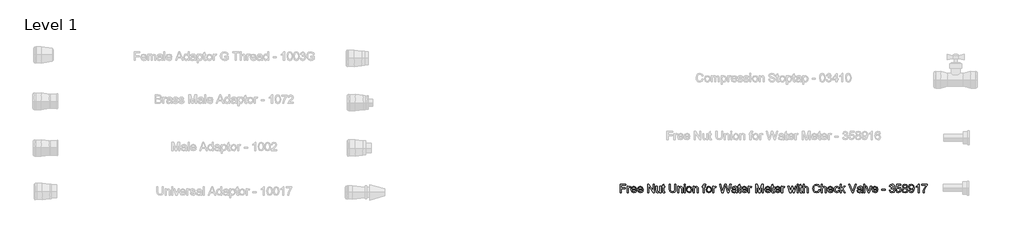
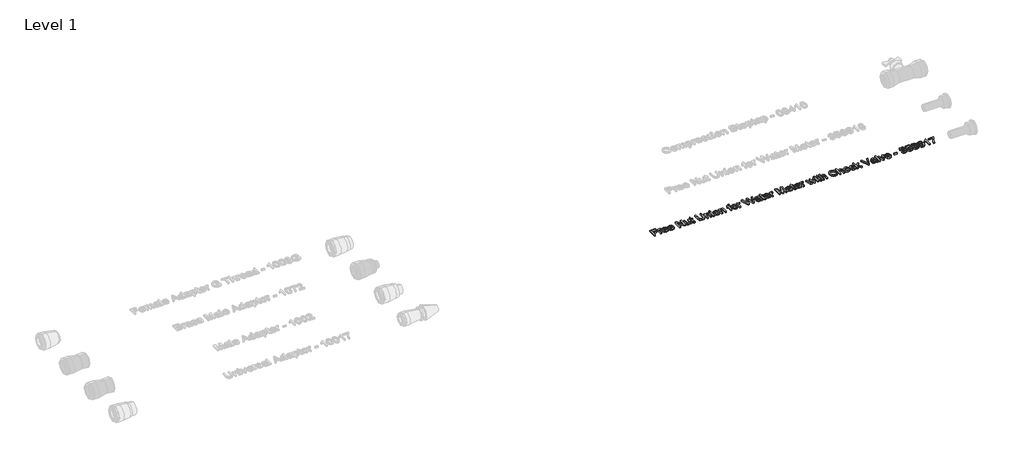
# One storey, part 13 of 13: 1 proxy.
"""IFC4 building model written with IfcOpenShell, lengths in millimetres."""

from ifc_helpers import new_model, si_unit, origin, origin_with_axes, place, context, project, spatial, polyline, outline, extrude, element, save

model = new_model("IFC4")

# Units and contexts
model_context = context("Model", 3, world=origin())
ifc_project = project(units=[si_unit("LENGTHUNIT", "METRE", prefix="MILLI")], contexts=[model_context])

# Site, building, storey
site = spatial("IfcSite", under=ifc_project)
building = spatial("IfcBuilding", under=site)
storey = spatial("IfcBuildingStorey", under=building, Name="Level 1", Elevation=0.0)

# Proxy
placement = place(None, origin())
element("IfcBuildingElementProxy", 1, Name="30 mm Arial", ObjectType="30 mm Arial", at=placement, inside=storey, context=model_context, shape_type="SweptSolid", body=[
    extrude(outline(polyline([(18334.4381791, 4454.3413835), (18334.4381791, 4483.8798451), (18354.284333, 4483.8798451), (18354.284333, 4480.1875374), (18338.1304868, 4480.1875374), (18338.1304868, 4471.4183066), (18351.9766407, 4471.4183066), (18351.9766407, 4467.7259989), (18338.1304868, 4467.7259989), (18338.1304868, 4454.3413835), (18334.4381791, 4454.3413835)])), origin_with_axes(), (0.0, 0.0, 1.0), 5.0),
    extrude(outline(polyline([(18358.8997176, 4454.3413835), (18358.8997176, 4476.0336912), (18362.1304868, 4476.0336912), (18362.1304868, 4472.8245566), (18364.423756, 4475.7812874), (18366.7314483, 4476.4952297), (18370.4381791, 4475.3558066), (18369.205006, 4472.0457104), (18366.6088522, 4472.802922), (18364.5211118, 4472.0745566), (18363.190583, 4470.0553258), (18362.5920253, 4465.7428258), (18362.5920253, 4454.3413835), (18358.8997176, 4454.3413835)])), origin_with_axes(), (0.0, 0.0, 1.0), 5.0),
    extrude(outline(polyline([(18387.9333714, 4460.802922), (18391.5535637, 4460.3413835), (18388.1677464, 4455.5745566), (18381.861256, 4453.8798451), (18374.1953907, 4456.8041239), (18371.361256, 4465.0072489), (18374.2242368, 4473.4808066), (18381.6521214, 4476.4952297), (18388.8672657, 4473.4880181), (18391.6689483, 4465.0288835), (18375.0535637, 4464.0336912), (18377.1773618, 4459.2380181), (18381.9333714, 4457.5721527), (18385.5535637, 4458.3437874), (18387.9333714, 4460.802922)]), holes=[polyline([(18375.0535637, 4467.7259989), (18387.9766407, 4467.7259989), (18386.4982753, 4471.0721527), (18381.6376983, 4472.802922), (18377.0908233, 4471.4219124), (18375.0535637, 4467.7259989)])]), origin_with_axes(), (0.0, 0.0, 1.0), 5.0),
    extrude(outline(polyline([(18410.548756, 4460.802922), (18414.1689483, 4460.3413835), (18410.783131, 4455.5745566), (18404.4766407, 4453.8798451), (18396.8107753, 4456.8041239), (18393.9766407, 4465.0072489), (18396.8396214, 4473.4808066), (18404.267506, 4476.4952297), (18411.4826503, 4473.4880181), (18414.284333, 4465.0288835), (18397.6689483, 4464.0336912), (18399.7927464, 4459.2380181), (18404.548756, 4457.5721527), (18408.1689483, 4458.3437874), (18410.548756, 4460.802922)]), holes=[polyline([(18397.6689483, 4467.7259989), (18410.5920253, 4467.7259989), (18409.1136599, 4471.0721527), (18404.253083, 4472.802922), (18399.706208, 4471.4219124), (18397.6689483, 4467.7259989)])]), origin_with_axes(), (0.0, 0.0, 1.0), 5.0),
    extrude(outline(polyline([(18429.9766407, 4454.3413835), (18429.9766407, 4483.8798451), (18433.9285637, 4483.8798451), (18449.361256, 4460.4784027), (18449.361256, 4483.8798451), (18453.0535637, 4483.8798451), (18453.0535637, 4454.3413835), (18449.1016407, 4454.3413835), (18433.6689483, 4477.7500374), (18433.6689483, 4454.3413835), (18429.9766407, 4454.3413835)])), origin_with_axes(), (0.0, 0.0, 1.0), 5.0),
    extrude(outline(polyline([(18472.8997176, 4454.3413835), (18472.8997176, 4458.0697489), (18466.236256, 4453.8798451), (18462.7639003, 4454.615422), (18460.3696695, 4456.4615758), (18459.2699099, 4459.1803258), (18459.0535637, 4462.6130181), (18459.0535637, 4476.0336912), (18462.7458714, 4476.0336912), (18462.7458714, 4464.3509989), (18462.9694291, 4460.5865758), (18464.4297657, 4458.3762393), (18467.1809676, 4457.5721527), (18470.2639003, 4458.3942681), (18472.3011599, 4460.6334508), (18472.8997176, 4464.7476335), (18472.8997176, 4476.0336912), (18476.5920253, 4476.0336912), (18476.5920253, 4454.3413835), (18472.8997176, 4454.3413835)])), origin_with_axes(), (0.0, 0.0, 1.0), 5.0),
    extrude(outline(polyline([(18489.5151022, 4457.4207104), (18489.9766407, 4454.2332104), (18487.2146214, 4453.8798451), (18484.1208714, 4454.4928258), (18482.5776022, 4456.1009989), (18482.1304868, 4460.2909027), (18482.1304868, 4472.3413835), (18479.361256, 4472.3413835), (18479.361256, 4476.0336912), (18482.1304868, 4476.0336912), (18482.1304868, 4481.3053258), (18485.8227945, 4483.4759989), (18485.8227945, 4476.0336912), (18489.5151022, 4476.0336912), (18489.5151022, 4472.3413835), (18485.8227945, 4472.3413835), (18485.8227945, 4460.3990758), (18486.017506, 4458.4952297), (18489.5151022, 4457.4207104)])), origin_with_axes(), (0.0, 0.0, 1.0), 5.0),
    extrude(outline(polyline([(18524.5920253, 4483.8798451), (18528.284333, 4483.8798451), (18528.284333, 4466.8389797), (18527.2819291, 4459.7752777), (18523.6689483, 4455.5204701), (18516.8179868, 4453.8798451), (18510.0715926, 4455.3077297), (18506.3288041, 4459.443547), (18505.2074099, 4466.8389797), (18505.2074099, 4483.8798451), (18508.8997176, 4483.8798451), (18508.8997176, 4466.9687874), (18509.628083, 4461.3401816), (18512.1304868, 4458.552922), (18516.471833, 4457.5721527), (18522.7242368, 4459.5120566), (18524.5920253, 4466.9687874), (18524.5920253, 4483.8798451)])), origin_with_axes(), (0.0, 0.0, 1.0), 5.0),
    extrude(outline(polyline([(18534.284333, 4454.3413835), (18534.284333, 4476.0336912), (18537.9766407, 4476.0336912), (18537.9766407, 4473.0048451), (18544.6545253, 4476.4952297), (18548.1413041, 4475.7921047), (18550.5211118, 4473.9459508), (18551.628083, 4471.2308066), (18551.8227945, 4467.6610951), (18551.8227945, 4454.3413835), (18548.1304868, 4454.3413835), (18548.1304868, 4467.1634989), (18547.705006, 4470.4303258), (18546.2014003, 4472.1574893), (18543.6665445, 4472.802922), (18539.6605349, 4471.3534027), (18537.9766407, 4465.8509989), (18537.9766407, 4454.3413835), (18534.284333, 4454.3413835)])), origin_with_axes(), (0.0, 0.0, 1.0), 5.0),
    extrude(outline(polyline([(18556.8997176, 4480.1875374), (18556.8997176, 4483.8798451), (18560.5920253, 4483.8798451), (18560.5920253, 4480.1875374), (18556.8997176, 4480.1875374)])), origin_with_axes(), (0.0, 0.0, 1.0), 5.0),
    extrude(outline(polyline([(18556.8997176, 4454.3413835), (18556.8997176, 4476.0336912), (18560.5920253, 4476.0336912), (18560.5920253, 4454.3413835), (18556.8997176, 4454.3413835)])), origin_with_axes(), (0.0, 0.0, 1.0), 5.0),
    extrude(outline(polyline([(18565.2074099, 4465.1875374), (18568.4021214, 4474.0937874), (18574.9069291, 4476.4952297), (18581.8840926, 4473.5709508), (18584.5920253, 4465.490422), (18583.3949099, 4458.9207104), (18579.908131, 4455.2031624), (18574.9069291, 4453.8798451), (18567.8864964, 4456.7933066), (18565.2074099, 4465.1875374)]), holes=[polyline([(18568.8997176, 4465.1947489), (18570.6088522, 4459.4723931), (18574.9069291, 4457.5721527), (18579.190583, 4459.4832104), (18580.8997176, 4465.3101335), (18579.1797657, 4470.9026816), (18574.9069291, 4472.802922), (18570.6088522, 4470.9098931), (18568.8997176, 4465.1947489)])]), origin_with_axes(), (0.0, 0.0, 1.0), 5.0),
    extrude(outline(polyline([(18588.7458714, 4454.3413835), (18588.7458714, 4476.0336912), (18592.4381791, 4476.0336912), (18592.4381791, 4473.0048451), (18599.1160637, 4476.4952297), (18602.6028426, 4475.7921047), (18604.9826503, 4473.9459508), (18606.0896214, 4471.2308066), (18606.284333, 4467.6610951), (18606.284333, 4454.3413835), (18602.5920253, 4454.3413835), (18602.5920253, 4467.1634989), (18602.1665445, 4470.4303258), (18600.6629387, 4472.1574893), (18598.128083, 4472.802922), (18594.1220733, 4471.3534027), (18592.4381791, 4465.8509989), (18592.4381791, 4454.3413835), (18588.7458714, 4454.3413835)])), origin_with_axes(), (0.0, 0.0, 1.0), 5.0),
    extrude(outline(polyline([(18623.8227945, 4454.3413835), (18623.8227945, 4472.3413835), (18620.5920253, 4472.3413835), (18620.5920253, 4476.0336912), (18623.8227945, 4476.0336912), (18623.8227945, 4478.2187874), (18624.2122176, 4481.2981143), (18626.1016407, 4483.4976335), (18629.8227945, 4484.3413835), (18633.190583, 4483.9375374), (18632.6497176, 4480.4759989), (18630.5223137, 4480.6490758), (18628.1965926, 4480.0360951), (18627.5151022, 4477.7500374), (18627.5151022, 4476.0336912), (18631.6689483, 4476.0336912), (18631.6689483, 4472.3413835), (18627.5151022, 4472.3413835), (18627.5151022, 4454.3413835), (18623.8227945, 4454.3413835)])), origin_with_axes(), (0.0, 0.0, 1.0), 5.0),
    extrude(outline(polyline([(18633.9766407, 4465.1875374), (18637.1713522, 4474.0937874), (18643.6761599, 4476.4952297), (18650.6533233, 4473.5709508), (18653.361256, 4465.490422), (18652.1641407, 4458.9207104), (18648.6773618, 4455.2031624), (18643.6761599, 4453.8798451), (18636.6557272, 4456.7933066), (18633.9766407, 4465.1875374)]), holes=[polyline([(18637.6689483, 4465.1947489), (18639.378083, 4459.4723931), (18643.6761599, 4457.5721527), (18647.9598137, 4459.4832104), (18649.6689483, 4465.3101335), (18647.9489964, 4470.9026816), (18643.6761599, 4472.802922), (18639.378083, 4470.9098931), (18637.6689483, 4465.1947489)])]), origin_with_axes(), (0.0, 0.0, 1.0), 5.0),
    extrude(outline(polyline([(18657.5151022, 4454.3413835), (18657.5151022, 4476.0336912), (18660.7458714, 4476.0336912), (18660.7458714, 4472.8245566), (18663.0391407, 4475.7812874), (18665.346833, 4476.4952297), (18669.0535637, 4475.3558066), (18667.8203907, 4472.0457104), (18665.2242368, 4472.802922), (18663.1364964, 4472.0745566), (18661.8059676, 4470.0553258), (18661.2074099, 4465.7428258), (18661.2074099, 4454.3413835), (18657.5151022, 4454.3413835)])), origin_with_axes(), (0.0, 0.0, 1.0), 5.0),
    extrude(outline(polyline([(18688.6473137, 4454.3413835), (18680.5920253, 4483.8798451), (18684.3997176, 4483.8798451), (18689.0727945, 4464.4663835), (18690.5151022, 4458.4735951), (18692.0583714, 4463.7740758), (18697.9141407, 4483.8798451), (18703.4021214, 4483.8798451), (18707.6569291, 4469.3053258), (18710.8227945, 4458.4735951), (18712.221833, 4464.2933066), (18716.9381791, 4483.8798451), (18720.7458714, 4483.8798451), (18712.6833714, 4454.3413835), (18708.7386599, 4454.3413835), (18701.6569291, 4477.1298451), (18700.6689483, 4480.3101335), (18699.5583714, 4476.4808066), (18693.1040445, 4454.3413835), (18688.6473137, 4454.3413835)])), origin_with_axes(), (0.0, 0.0, 1.0), 5.0),
    extrude(outline(polyline([(18737.8227945, 4457.1106143), (18734.2422657, 4454.6082104), (18730.2867368, 4453.8798451), (18724.924958, 4455.6322489), (18723.0535637, 4460.1106143), (18723.7602945, 4463.0312874), (18725.6172657, 4465.1514797), (18728.2026022, 4466.3630181), (18731.3973137, 4466.9183066), (18737.8011599, 4468.1875374), (18736.8059676, 4471.7356143), (18732.7242368, 4472.802922), (18728.9886599, 4472.0925854), (18727.2074099, 4469.5721527), (18723.5151022, 4470.0336912), (18725.112458, 4473.6394604), (18728.3288041, 4475.7524412), (18733.2001983, 4476.4952297), (18737.674958, 4475.8389797), (18740.2026022, 4474.1911431), (18741.3348137, 4471.6851335), (18741.5151022, 4468.4543643), (18741.5151022, 4463.8606143), (18741.7026022, 4457.4459508), (18742.4381791, 4454.3413835), (18738.7458714, 4454.3413835), (18737.8227945, 4457.1106143)]), holes=[polyline([(18737.8119772, 4463.9723931), (18731.8660637, 4463.3630181), (18728.689381, 4462.7644604), (18727.2506791, 4461.7909027), (18727.845631, 4458.3726335), (18731.0727945, 4457.5721527), (18734.8083714, 4458.4555662), (18737.2170253, 4460.5937874), (18737.8119772, 4463.9723931)])]), origin_with_axes(), (0.0, 0.0, 1.0), 5.0),
    extrude(outline(polyline([(18754.4381791, 4457.4207104), (18754.8997176, 4454.2332104), (18752.1376983, 4453.8798451), (18749.0439483, 4454.4928258), (18747.5006791, 4456.1009989), (18747.0535637, 4460.2909027), (18747.0535637, 4472.3413835), (18744.284333, 4472.3413835), (18744.284333, 4476.0336912), (18747.0535637, 4476.0336912), (18747.0535637, 4481.3053258), (18750.7458714, 4483.4759989), (18750.7458714, 4476.0336912), (18754.4381791, 4476.0336912), (18754.4381791, 4472.3413835), (18750.7458714, 4472.3413835), (18750.7458714, 4460.3990758), (18750.940583, 4458.4952297), (18754.4381791, 4457.4207104)])), origin_with_axes(), (0.0, 0.0, 1.0), 5.0),
    extrude(outline(polyline([(18773.3179868, 4460.802922), (18776.9381791, 4460.3413835), (18773.5523618, 4455.5745566), (18767.2458714, 4453.8798451), (18759.580006, 4456.8041239), (18756.7458714, 4465.0072489), (18759.6088522, 4473.4808066), (18767.0367368, 4476.4952297), (18774.251881, 4473.4880181), (18777.0535637, 4465.0288835), (18760.4381791, 4464.0336912), (18762.5619772, 4459.2380181), (18767.3179868, 4457.5721527), (18770.9381791, 4458.3437874), (18773.3179868, 4460.802922)]), holes=[polyline([(18760.4381791, 4467.7259989), (18773.361256, 4467.7259989), (18771.8828907, 4471.0721527), (18767.0223137, 4472.802922), (18762.4754387, 4471.4219124), (18760.4381791, 4467.7259989)])]), origin_with_axes(), (0.0, 0.0, 1.0), 5.0),
    extrude(outline(polyline([(18780.7458714, 4454.3413835), (18780.7458714, 4476.0336912), (18783.9766407, 4476.0336912), (18783.9766407, 4472.8245566), (18786.2699099, 4475.7812874), (18788.5776022, 4476.4952297), (18792.284333, 4475.3558066), (18791.0511599, 4472.0457104), (18788.455006, 4472.802922), (18786.3672657, 4472.0745566), (18785.0367368, 4470.0553258), (18784.4381791, 4465.7428258), (18784.4381791, 4454.3413835), (18780.7458714, 4454.3413835)])), origin_with_axes(), (0.0, 0.0, 1.0), 5.0),
    extrude(outline(polyline([(18806.5920253, 4454.3413835), (18806.5920253, 4483.8798451), (18812.9453907, 4483.8798451), (18818.9886599, 4463.0601335), (18820.2074099, 4458.7115758), (18821.5271214, 4463.4207104), (18827.4694291, 4483.8798451), (18833.8227945, 4483.8798451), (18833.8227945, 4454.3413835), (18830.1304868, 4454.3413835), (18830.1304868, 4480.1875374), (18822.7098137, 4454.3413835), (18817.705006, 4454.3413835), (18810.284333, 4480.1875374), (18810.284333, 4454.3413835), (18806.5920253, 4454.3413835)])), origin_with_axes(), (0.0, 0.0, 1.0), 5.0),
    extrude(outline(polyline([(18855.0102945, 4460.802922), (18858.6304868, 4460.3413835), (18855.2446695, 4455.5745566), (18848.9381791, 4453.8798451), (18841.2723137, 4456.8041239), (18838.4381791, 4465.0072489), (18841.3011599, 4473.4808066), (18848.7290445, 4476.4952297), (18855.9441887, 4473.4880181), (18858.7458714, 4465.0288835), (18842.1304868, 4464.0336912), (18844.2542849, 4459.2380181), (18849.0102945, 4457.5721527), (18852.6304868, 4458.3437874), (18855.0102945, 4460.802922)]), holes=[polyline([(18842.1304868, 4467.7259989), (18855.0535637, 4467.7259989), (18853.5751983, 4471.0721527), (18848.7146214, 4472.802922), (18844.1677464, 4471.4219124), (18842.1304868, 4467.7259989)])]), origin_with_axes(), (0.0, 0.0, 1.0), 5.0),
    extrude(outline(polyline([(18870.284333, 4457.4207104), (18870.7458714, 4454.2332104), (18867.9838522, 4453.8798451), (18864.8901022, 4454.4928258), (18863.346833, 4456.1009989), (18862.8997176, 4460.2909027), (18862.8997176, 4472.3413835), (18860.1304868, 4472.3413835), (18860.1304868, 4476.0336912), (18862.8997176, 4476.0336912), (18862.8997176, 4481.3053258), (18866.5920253, 4483.4759989), (18866.5920253, 4476.0336912), (18870.284333, 4476.0336912), (18870.284333, 4472.3413835), (18866.5920253, 4472.3413835), (18866.5920253, 4460.3990758), (18866.7867368, 4458.4952297), (18870.284333, 4457.4207104)])), origin_with_axes(), (0.0, 0.0, 1.0), 5.0),
    extrude(outline(polyline([(18889.1641407, 4460.802922), (18892.784333, 4460.3413835), (18889.3985157, 4455.5745566), (18883.0920253, 4453.8798451), (18875.4261599, 4456.8041239), (18872.5920253, 4465.0072489), (18875.455006, 4473.4808066), (18882.8828907, 4476.4952297), (18890.0980349, 4473.4880181), (18892.8997176, 4465.0288835), (18876.284333, 4464.0336912), (18878.408131, 4459.2380181), (18883.1641407, 4457.5721527), (18886.784333, 4458.3437874), (18889.1641407, 4460.802922)]), holes=[polyline([(18876.284333, 4467.7259989), (18889.2074099, 4467.7259989), (18887.7290445, 4471.0721527), (18882.8684676, 4472.802922), (18878.3215926, 4471.4219124), (18876.284333, 4467.7259989)])]), origin_with_axes(), (0.0, 0.0, 1.0), 5.0),
    extrude(outline(polyline([(18896.5920253, 4454.3413835), (18896.5920253, 4476.0336912), (18899.8227945, 4476.0336912), (18899.8227945, 4472.8245566), (18902.1160637, 4475.7812874), (18904.423756, 4476.4952297), (18908.1304868, 4475.3558066), (18906.8973137, 4472.0457104), (18904.3011599, 4472.802922), (18902.2134195, 4472.0745566), (18900.8828907, 4470.0553258), (18900.284333, 4465.7428258), (18900.284333, 4454.3413835), (18896.5920253, 4454.3413835)])), origin_with_axes(), (0.0, 0.0, 1.0), 5.0),
    extrude(outline(polyline([(18925.5751983, 4454.3413835), (18918.9766407, 4476.0336912), (18922.8131791, 4476.0336912), (18926.5559676, 4463.3774412), (18927.673756, 4458.8558066), (18928.5896214, 4463.2115758), (18931.5679868, 4476.0336912), (18935.9670253, 4476.0336912), (18938.9309676, 4463.2476335), (18939.7458714, 4459.302922), (18940.9141407, 4463.4639797), (18944.6641407, 4476.0336912), (18948.5151022, 4476.0336912), (18941.8660637, 4454.3413835), (18937.4021214, 4454.3413835), (18934.5679868, 4467.0625374), (18933.7458714, 4471.0288835), (18930.0896214, 4454.3413835), (18925.5751983, 4454.3413835)])), origin_with_axes(), (0.0, 0.0, 1.0), 5.0),
    extrude(outline(polyline([(18951.0535637, 4454.3413835), (18951.0535637, 4476.0336912), (18954.7458714, 4476.0336912), (18954.7458714, 4454.3413835), (18951.0535637, 4454.3413835)])), origin_with_axes(), (0.0, 0.0, 1.0), 5.0),
    extrude(outline(polyline([(18951.0535637, 4480.1875374), (18951.0535637, 4483.8798451), (18954.7458714, 4483.8798451), (18954.7458714, 4480.1875374), (18951.0535637, 4480.1875374)])), origin_with_axes(), (0.0, 0.0, 1.0), 5.0),
    extrude(outline(polyline([(18968.1304868, 4457.4207104), (18968.5920253, 4454.2332104), (18965.830006, 4453.8798451), (18962.736256, 4454.4928258), (18961.1929868, 4456.1009989), (18960.7458714, 4460.2909027), (18960.7458714, 4472.3413835), (18957.9766407, 4472.3413835), (18957.9766407, 4476.0336912), (18960.7458714, 4476.0336912), (18960.7458714, 4481.3053258), (18964.4381791, 4483.4759989), (18964.4381791, 4476.0336912), (18968.1304868, 4476.0336912), (18968.1304868, 4472.3413835), (18964.4381791, 4472.3413835), (18964.4381791, 4460.3990758), (18964.6328907, 4458.4952297), (18968.1304868, 4457.4207104)])), origin_with_axes(), (0.0, 0.0, 1.0), 5.0),
    extrude(outline(polyline([(18971.8227945, 4454.3413835), (18971.8227945, 4483.8798451), (18975.5151022, 4483.8798451), (18975.5151022, 4473.0192681), (18981.940583, 4476.4952297), (18986.0872176, 4475.5469124), (18988.6040445, 4472.9255181), (18989.361256, 4468.0721527), (18989.361256, 4454.3413835), (18985.6689483, 4454.3413835), (18985.6689483, 4467.6899412), (18984.4934676, 4471.584172), (18981.1617368, 4472.802922), (18978.1364964, 4471.9808066), (18976.1172657, 4469.7524412), (18975.5151022, 4465.865422), (18975.5151022, 4454.3413835), (18971.8227945, 4454.3413835)])), origin_with_axes(), (0.0, 0.0, 1.0), 5.0),
    extrude(outline(polyline([(19027.2074099, 4464.8413835), (19030.8997176, 4463.8894604), (19026.5223137, 4456.443547), (19018.7915445, 4453.8798451), (19011.1076503, 4455.8197489), (19006.6004387, 4461.4375374), (19005.0535637, 4469.334172), (19006.8023618, 4477.3606143), (19011.7747176, 4482.5637393), (19018.8708714, 4484.3413835), (19026.2663041, 4482.0409027), (19030.4381791, 4475.5649412), (19026.7458714, 4474.6851335), (19023.7170253, 4479.224797), (19018.7266407, 4480.6490758), (19012.9501983, 4479.0697489), (19009.6869772, 4474.8293643), (19008.7458714, 4469.3413835), (19009.8600541, 4462.9808066), (19013.3288041, 4458.9171047), (19018.423756, 4457.5721527), (19024.0739964, 4459.4038835), (19027.2074099, 4464.8413835)])), origin_with_axes(), (0.0, 0.0, 1.0), 5.0),
    extrude(outline(polyline([(19035.5151022, 4454.3413835), (19035.5151022, 4483.8798451), (19039.2074099, 4483.8798451), (19039.2074099, 4473.0192681), (19045.6328907, 4476.4952297), (19049.7795253, 4475.5469124), (19052.2963522, 4472.9255181), (19053.0535637, 4468.0721527), (19053.0535637, 4454.3413835), (19049.361256, 4454.3413835), (19049.361256, 4467.6899412), (19048.1857753, 4471.584172), (19044.8540445, 4472.802922), (19041.8288041, 4471.9808066), (19039.8095733, 4469.7524412), (19039.2074099, 4465.865422), (19039.2074099, 4454.3413835), (19035.5151022, 4454.3413835)])), origin_with_axes(), (0.0, 0.0, 1.0), 5.0),
    extrude(outline(polyline([(19073.3179868, 4460.802922), (19076.9381791, 4460.3413835), (19073.5523618, 4455.5745566), (19067.2458714, 4453.8798451), (19059.580006, 4456.8041239), (19056.7458714, 4465.0072489), (19059.6088522, 4473.4808066), (19067.0367368, 4476.4952297), (19074.251881, 4473.4880181), (19077.0535637, 4465.0288835), (19060.4381791, 4464.0336912), (19062.5619772, 4459.2380181), (19067.3179868, 4457.5721527), (19070.9381791, 4458.3437874), (19073.3179868, 4460.802922)]), holes=[polyline([(19060.4381791, 4467.7259989), (19073.361256, 4467.7259989), (19071.8828907, 4471.0721527), (19067.0223137, 4472.802922), (19062.4754387, 4471.4219124), (19060.4381791, 4467.7259989)])]), origin_with_axes(), (0.0, 0.0, 1.0), 5.0),
    extrude(outline(polyline([(19094.5920253, 4462.1875374), (19098.284333, 4461.7259989), (19095.3203907, 4455.9603739), (19089.4646214, 4453.8798451), (19082.4658233, 4456.7824893), (19079.8227945, 4465.1082104), (19080.9514003, 4471.2416239), (19084.3913041, 4475.1827297), (19089.4141407, 4476.4952297), (19095.0283233, 4474.6923451), (19097.8227945, 4469.5721527), (19094.1304868, 4469.1106143), (19092.4177464, 4471.8762393), (19089.4429868, 4472.802922), (19085.1629387, 4470.9784027), (19083.5151022, 4465.209172), (19085.126881, 4459.3858547), (19089.3420253, 4457.5721527), (19092.8215926, 4458.7043643), (19094.5920253, 4462.1875374)])), origin_with_axes(), (0.0, 0.0, 1.0), 5.0),
    extrude(outline(polyline([(19101.5151022, 4454.3413835), (19101.5151022, 4483.8798451), (19105.2074099, 4483.8798451), (19105.2074099, 4468.0072489), (19113.486256, 4476.0336912), (19118.5920253, 4476.0336912), (19110.2122176, 4467.9062874), (19119.0535637, 4454.3413835), (19114.7410637, 4454.3413835), (19107.565583, 4465.3389797), (19105.2074099, 4463.052922), (19105.2074099, 4454.3413835), (19101.5151022, 4454.3413835)])), origin_with_axes(), (0.0, 0.0, 1.0), 5.0),
    extrude(outline(polyline([(19143.0102945, 4454.3413835), (19131.2554868, 4483.8798451), (19135.2074099, 4483.8798451), (19143.0751983, 4462.5985951), (19144.6689483, 4457.802922), (19146.2410637, 4462.5985951), (19154.1304868, 4483.8798451), (19158.0824099, 4483.8798451), (19146.8251983, 4454.3413835), (19143.0102945, 4454.3413835)])), origin_with_axes(), (0.0, 0.0, 1.0), 5.0),
    extrude(outline(polyline([(19174.8997176, 4457.1106143), (19171.3191887, 4454.6082104), (19167.3636599, 4453.8798451), (19162.001881, 4455.6322489), (19160.1304868, 4460.1106143), (19160.8372176, 4463.0312874), (19162.6941887, 4465.1514797), (19165.2795253, 4466.3630181), (19168.4742368, 4466.9183066), (19174.878083, 4468.1875374), (19173.8828907, 4471.7356143), (19169.8011599, 4472.802922), (19166.065583, 4472.0925854), (19164.284333, 4469.5721527), (19160.5920253, 4470.0336912), (19162.189381, 4473.6394604), (19165.4057272, 4475.7524412), (19170.2771214, 4476.4952297), (19174.751881, 4475.8389797), (19177.2795253, 4474.1911431), (19178.4117368, 4471.6851335), (19178.5920253, 4468.4543643), (19178.5920253, 4463.8606143), (19178.7795253, 4457.4459508), (19179.5151022, 4454.3413835), (19175.8227945, 4454.3413835), (19174.8997176, 4457.1106143)]), holes=[polyline([(19174.8889003, 4463.9723931), (19168.9429868, 4463.3630181), (19165.7663041, 4462.7644604), (19164.3276022, 4461.7909027), (19164.9225541, 4458.3726335), (19168.1497176, 4457.5721527), (19171.8852945, 4458.4555662), (19174.2939483, 4460.5937874), (19174.8889003, 4463.9723931)])]), origin_with_axes(), (0.0, 0.0, 1.0), 5.0),
    extrude(outline(polyline([(19183.6689483, 4454.3413835), (19183.6689483, 4483.8798451), (19187.361256, 4483.8798451), (19187.361256, 4454.3413835), (19183.6689483, 4454.3413835)])), origin_with_axes(), (0.0, 0.0, 1.0), 5.0),
    extrude(outline(polyline([(19198.221833, 4454.3413835), (19190.5920253, 4476.0336912), (19194.5006791, 4476.0336912), (19199.1232753, 4463.0384989), (19200.5151022, 4458.6683066), (19201.878083, 4462.7933066), (19206.5295253, 4476.0336912), (19210.4381791, 4476.0336912), (19202.9021214, 4454.3413835), (19198.221833, 4454.3413835)])), origin_with_axes(), (0.0, 0.0, 1.0), 5.0),
    extrude(outline(polyline([(19228.8564483, 4460.802922), (19232.4766407, 4460.3413835), (19229.0908233, 4455.5745566), (19222.784333, 4453.8798451), (19215.1184676, 4456.8041239), (19212.284333, 4465.0072489), (19215.1473137, 4473.4808066), (19222.5751983, 4476.4952297), (19229.7903426, 4473.4880181), (19232.5920253, 4465.0288835), (19215.9766407, 4464.0336912), (19218.1004387, 4459.2380181), (19222.8564483, 4457.5721527), (19226.4766407, 4458.3437874), (19228.8564483, 4460.802922)]), holes=[polyline([(19215.9766407, 4467.7259989), (19228.8997176, 4467.7259989), (19227.4213522, 4471.0721527), (19222.5607753, 4472.802922), (19218.0139003, 4471.4219124), (19215.9766407, 4467.7259989)])]), origin_with_axes(), (0.0, 0.0, 1.0), 5.0),
    extrude(outline(polyline([(19245.9766407, 4463.1106143), (19245.9766407, 4466.802922), (19257.5151022, 4466.802922), (19257.5151022, 4463.1106143), (19245.9766407, 4463.1106143)])), origin_with_axes(), (0.0, 0.0, 1.0), 5.0),
    extrude(outline(polyline([(19272.284333, 4462.1875374), (19275.9766407, 4462.6490758), (19278.0139003, 4458.7620566), (19281.8251983, 4457.5721527), (19286.3107753, 4459.209172), (19287.9766407, 4463.2620566), (19286.3251983, 4467.0805662), (19282.128083, 4468.5913835), (19279.5391407, 4468.1875374), (19279.9501983, 4471.8798451), (19284.7314483, 4472.896672), (19286.5920253, 4476.1562874), (19285.2434676, 4479.0445085), (19281.767506, 4480.1875374), (19278.2482753, 4479.0336912), (19276.4381791, 4475.5721527), (19272.7458714, 4476.0336912), (19275.767506, 4481.8245566), (19281.6376983, 4483.8798451), (19286.0908233, 4482.8666239), (19289.206208, 4480.0973931), (19290.284333, 4476.3726335), (19289.2602945, 4472.9687874), (19286.2314483, 4470.5240758), (19290.2554868, 4468.0000374), (19291.6689483, 4463.1971527), (19288.8420253, 4456.5913835), (19281.6953907, 4453.8798451), (19275.2194291, 4456.1947489), (19272.284333, 4462.1875374)])), origin_with_axes(), (0.0, 0.0, 1.0), 5.0),
    extrude(outline(polyline([(19294.8997176, 4462.1875374), (19298.5920253, 4462.6490758), (19300.4526022, 4458.8449893), (19304.3107753, 4457.5721527), (19308.940583, 4459.3425854), (19310.5920253, 4464.0409027), (19309.0451503, 4468.4255181), (19304.3684676, 4470.0336912), (19301.126881, 4469.3918643), (19299.0535637, 4467.7259989), (19295.361256, 4468.1875374), (19298.5920253, 4483.4183066), (19312.8997176, 4483.4183066), (19312.8997176, 4479.7259989), (19301.5776022, 4479.7259989), (19299.9982753, 4471.5913835), (19305.3997176, 4473.7259989), (19311.7134195, 4471.0793643), (19314.284333, 4464.271672), (19311.9694291, 4457.4207104), (19304.2963522, 4453.8798451), (19297.7807272, 4456.1550854), (19294.8997176, 4462.1875374)])), origin_with_axes(), (0.0, 0.0, 1.0), 5.0),
    extrude(outline(polyline([(19322.8949099, 4470.6106143), (19319.5307272, 4472.9038835), (19318.4381791, 4476.4735951), (19320.8179868, 4481.7452297), (19327.1569291, 4483.8798451), (19333.5535637, 4481.6947489), (19335.9766407, 4476.3726335), (19334.8985157, 4472.8930662), (19331.628083, 4470.6106143), (19335.5547657, 4467.7151816), (19336.8997176, 4462.9375374), (19334.2314483, 4456.490422), (19327.2074099, 4453.8798451), (19320.1833714, 4456.5012393), (19317.5151022, 4463.0384989), (19318.9141407, 4467.927922), (19322.8949099, 4470.6106143)]), holes=[polyline([(19322.1304868, 4476.365422), (19323.439381, 4473.4663835), (19327.2506791, 4472.3413835), (19330.986256, 4473.459172), (19332.284333, 4476.1995566), (19330.9429868, 4479.037297), (19327.2074099, 4480.1875374), (19323.4610157, 4479.0625374), (19322.1304868, 4476.365422)]), polyline([(19321.2074099, 4463.1683066), (19321.8239964, 4460.3882585), (19324.0054868, 4458.3077297), (19327.236256, 4457.5721527), (19331.6352945, 4459.1190277), (19333.2074099, 4463.052922), (19331.5848137, 4467.0625374), (19327.1136599, 4468.6490758), (19322.768708, 4467.084172), (19321.2074099, 4463.1683066)])]), origin_with_axes(), (0.0, 0.0, 1.0), 5.0),
    extrude(outline(polyline([(19340.5920253, 4461.7259989), (19344.284333, 4462.1875374), (19345.9429868, 4458.6647008), (19349.0872176, 4457.5721527), (19352.0764003, 4458.2752777), (19354.1028426, 4460.1538835), (19355.3107753, 4463.3630181), (19355.8444291, 4467.646672), (19352.8696695, 4465.5697489), (19348.8203907, 4464.4952297), (19342.6509195, 4467.1202297), (19340.1304868, 4474.0360951), (19342.7735157, 4481.1755181), (19349.3973137, 4483.8798451), (19354.658131, 4482.3365758), (19358.2783233, 4477.9375374), (19359.5151022, 4469.6731143), (19358.2819291, 4460.7055662), (19354.6148618, 4455.6250374), (19348.9141407, 4453.8798451), (19343.2386599, 4455.9387393), (19340.5920253, 4461.7259989)]), holes=[polyline([(19355.8227945, 4474.1226335), (19354.2290445, 4478.5505181), (19349.9958714, 4480.1875374), (19345.5535637, 4478.4243162), (19343.8227945, 4473.8558066), (19345.4598137, 4469.7632585), (19349.8949099, 4468.1875374), (19354.1533233, 4469.7632585), (19355.8227945, 4474.1226335)])]), origin_with_axes(), (0.0, 0.0, 1.0), 5.0),
    extrude(outline(polyline([(19376.5920253, 4454.3413835), (19372.8997176, 4454.3413835), (19372.8997176, 4477.3606143), (19369.4021214, 4474.8690277), (19365.5151022, 4473.0048451), (19365.5151022, 4476.4952297), (19370.9273618, 4479.9495566), (19374.2122176, 4483.8798451), (19376.5920253, 4483.8798451), (19376.5920253, 4454.3413835)])), origin_with_axes(), (0.0, 0.0, 1.0), 5.0),
    extrude(outline(polyline([(19385.361256, 4479.7259989), (19385.361256, 4483.4183066), (19404.7458714, 4483.4183066), (19404.7458714, 4480.4327297), (19399.2470733, 4472.4892201), (19395.0391407, 4462.3678258), (19393.6689483, 4454.3413835), (19389.9766407, 4454.3413835), (19391.4441887, 4462.6707104), (19395.471833, 4472.0853739), (19401.0535637, 4479.7259989), (19385.361256, 4479.7259989)])), origin_with_axes(), (0.0, 0.0, 1.0), 5.0),
])

save(model, "model.ifc")
